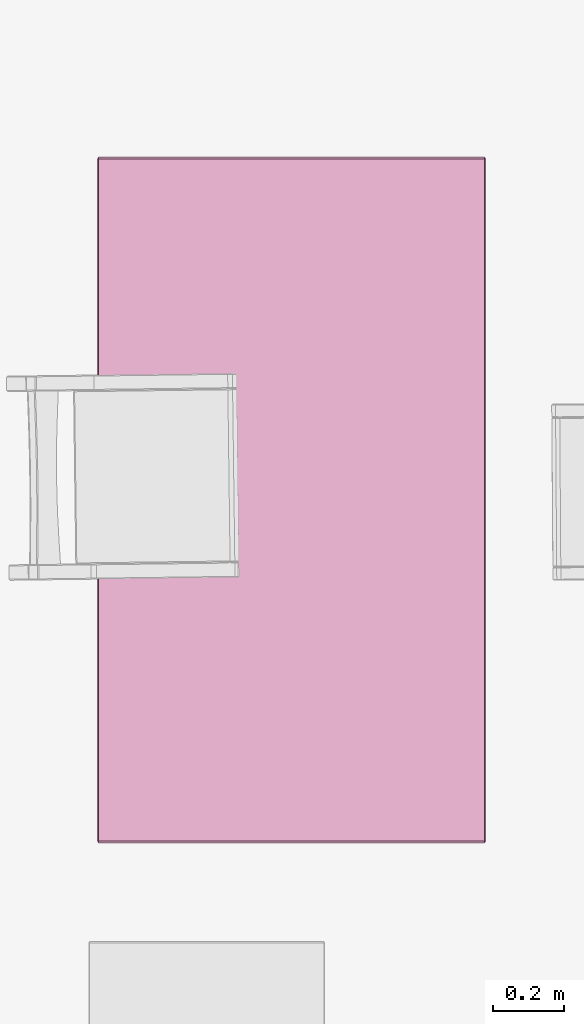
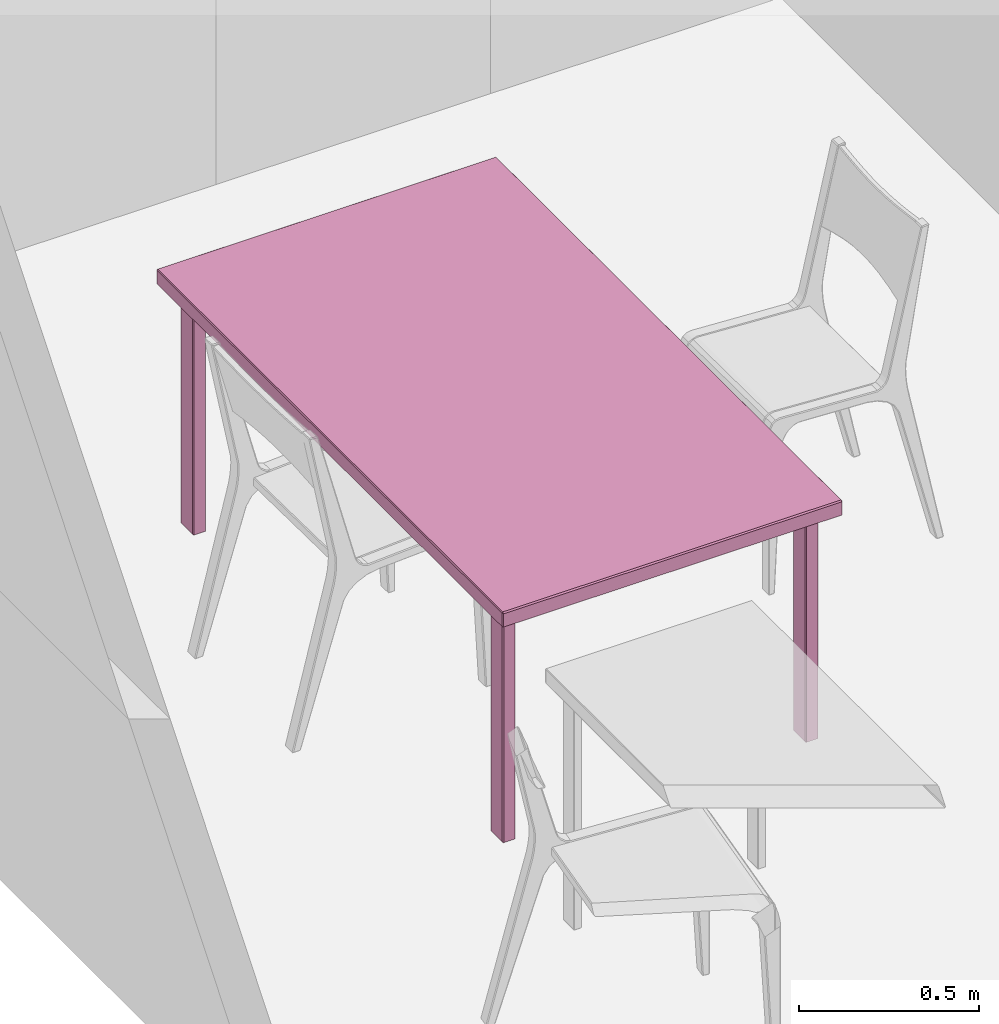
# One storey, part 7 of 26: 1 furnishing.
"""IFC2X3 building model written with IfcOpenShell, lengths in metres."""

import ifcopenshell
import ifcopenshell.guid

model = None  # the IFC model being written
_history = None  # IfcOwnerHistory: only IFC2X3 demands one
_inside = {}  # id of a spatial element -> (the spatial element, [elements in it])
_under = {}  # id of a project, library or spatial element -> (it, [spatial elements below it])
_declared = {}  # id of a project -> (the project, [libraries it declares])
_typed = {}  # id of a type object -> (the type object, [elements of that type])
_made_of = {}  # id of a material, layer set ... -> (it, [elements and type objects made of it])


def new_model(schema):
    """Start an empty IFC model of exactly this schema.

    Asked for "IFC4X3", IfcOpenShell would pick the latest addendum, in which some entities
    have other attributes; the version numbers below select the first issue.
    IFC2X3 requires an IfcOwnerHistory on every rooted entity: one is made here for all.
    """
    global model, _history
    if schema == "IFC4X3":
        model = ifcopenshell.file(schema_version=(4, 3, 0, 0))
    else:
        model = ifcopenshell.file(schema=schema)
    _inside.clear()
    _under.clear()
    _declared.clear()
    _typed.clear()
    _made_of.clear()
    _history = None
    if model.schema == "IFC2X3":
        org = make("IfcOrganization", Name="unknown")
        user = make(
            "IfcPersonAndOrganization",
            ThePerson=make("IfcPerson", FamilyName="unknown"),
            TheOrganization=org,
        )
        app = make(
            "IfcApplication",
            ApplicationDeveloper=org,
            Version="unknown",
            ApplicationFullName="unknown",
            ApplicationIdentifier="unknown",
        )
        _history = make(
            "IfcOwnerHistory",
            OwningUser=user,
            OwningApplication=app,
            ChangeAction="ADDED",
            CreationDate=0,
        )
    return model


def make(cls, **values):
    """One entity of the class cls with the attributes given. An attribute that is None is left unset."""
    return model.create_entity(
        cls, **{name: value for name, value in values.items() if value is not None}
    )


def rooted(cls, **values):
    """An entity with a GlobalId (a new one), such as an element, a storey or a relation."""
    return make(cls, GlobalId=ifcopenshell.guid.new(), OwnerHistory=_history, **values)


def si_unit(unit_type, name, prefix=None):
    """IfcSIUnit, for example si_unit("LENGTHUNIT", "METRE", prefix="MILLI")."""
    return make("IfcSIUnit", UnitType=unit_type, Prefix=prefix, Name=name)


def assignment(units):
    """IfcUnitAssignment: the units of a project."""
    return None if units is None else make("IfcUnitAssignment", Units=units)


def point(xyz):
    """IfcCartesianPoint."""
    return None if xyz is None else make("IfcCartesianPoint", Coordinates=xyz)


def direction(xyz):
    """IfcDirection."""
    return None if xyz is None else make("IfcDirection", DirectionRatios=xyz)


def frame(location, z_axis=None, x_axis=None):
    """IfcAxis2Placement3D, a coordinate frame: its origin and axes. An axis left out is left unset."""
    return make(
        "IfcAxis2Placement3D",
        Location=point(location),
        Axis=direction(z_axis),
        RefDirection=direction(x_axis),
    )


def origin_with_axes():
    """The frame at (0, 0, 0) with the z axis (0, 0, 1) and the x axis (1, 0, 0) written out."""
    return frame((0.0, 0.0, 0.0), z_axis=(0.0, 0.0, 1.0), x_axis=(1.0, 0.0, 0.0))


def place(relative_to, where):
    """IfcLocalPlacement: puts the frame where relative to a parent placement (None: the world)."""
    return make(
        "IfcLocalPlacement", PlacementRelTo=relative_to, RelativePlacement=where
    )


def context(
    kind, dimensions, precision=None, world=None, true_north=None, identifier=None
):
    """IfcGeometricRepresentationContext, for example the 3D "Model" context."""
    return make(
        "IfcGeometricRepresentationContext",
        ContextIdentifier=identifier,
        ContextType=kind,
        CoordinateSpaceDimension=dimensions,
        Precision=precision,
        WorldCoordinateSystem=world,
        TrueNorth=true_north,
    )


def project(units=None, contexts=None):
    """IfcProject with its units and contexts."""
    return rooted(
        "IfcProject",
        Name="project",
        RepresentationContexts=contexts,
        UnitsInContext=assignment(units),
    )


def spatial(cls, under=None, at=None, **own):
    """A site, building, storey or space (cls), placed at a placement, below another one or the project."""
    s = rooted(cls, ObjectPlacement=at, **own)
    if under is not None:
        _under.setdefault(under.id(), (under, []))[1].append(s)
    return s


def faces_of(points, faces, orient=None, outer=None):
    """IfcFace entities. A face is a list of loops; a loop is a list of indices into points, from 0.

    orient and outer hold one flag for each loop. By default every Orientation is true, the
    first loop of a face is its IfcFaceOuterBound and the others are IfcFaceBound.
    """
    made = []
    for i, loops in enumerate(faces):
        bounds = []
        for j, loop in enumerate(loops):
            is_outer = j == 0 if outer is None else outer[i][j]
            bounds.append(
                make(
                    "IfcFaceOuterBound" if is_outer else "IfcFaceBound",
                    Bound=make("IfcPolyLoop", Polygon=[points[k] for k in loop]),
                    Orientation=True if orient is None else orient[i][j],
                )
            )
        made.append(make("IfcFace", Bounds=bounds))
    return made


def faceted_brep(points, faces, orient=None, outer=None, voids=None):
    """IfcFacetedBrep: a solid bounded by flat faces; with voids (closed shells), ...WithVoids."""
    shared = [point(p) for p in points]
    hull = make("IfcClosedShell", CfsFaces=faces_of(shared, faces, orient, outer))
    if voids is None:
        return make("IfcFacetedBrep", Outer=hull)
    return make(
        "IfcFacetedBrepWithVoids",
        Outer=hull,
        Voids=[
            make(cls, CfsFaces=faces_of(shared, fs, o, b)) for cls, fs, o, b in voids
        ],
    )


def shape(context_of_items, identifier, shape_type, items):
    """IfcShapeRepresentation: the items that make up one representation, for example the "Body"."""
    return make(
        "IfcShapeRepresentation",
        ContextOfItems=context_of_items,
        RepresentationIdentifier=identifier,
        RepresentationType=shape_type,
        Items=items,
    )


def made_of(thing, what):
    """Note that an element or type object is made of a material, layer set ...; save() writes the relation."""
    if what is not None:
        _made_of.setdefault(what.id(), (what, []))[1].append(thing)
    return thing


def type_object(cls, material=None, **own):
    """A type object (cls), such as IfcWallType, which elements share."""
    return made_of(rooted(cls, **own), material)


def element(
    cls,
    number,
    at=None,
    inside=None,
    cuts=None,
    type_object=None,
    material=None,
    context=None,
    identifier="Body",
    shape_type=None,
    held_by="IfcProductDefinitionShape",
    body=None,
    shapes=None,
    **own,
):
    """One element of the class cls, such as IfcWall. Its Tag is "e" and its number.

    at: its placement. inside: the storey or other place that contains it. cuts: it is an
    opening in that element (IfcRelVoidsElement). A single representation is given by context,
    identifier, shape_type and body (its items); several are given by shapes. held_by: the class
    of the entity that holds the representations. save() writes the other relations.
    """
    e = rooted(cls, Tag="e%d" % number, ObjectPlacement=at, **own)
    if body is not None:
        shapes = [shape(context, identifier, shape_type, body)]
    if shapes is not None:
        e.Representation = make(held_by, Representations=shapes)
    if inside is not None:
        _inside.setdefault(inside.id(), (inside, []))[1].append(e)
    if cuts is not None:
        rooted(
            "IfcRelVoidsElement", RelatingBuildingElement=cuts, RelatedOpeningElement=e
        )
    if type_object is not None:
        _typed.setdefault(type_object.id(), (type_object, []))[1].append(e)
    return made_of(e, material)


def aggregate(whole, parts):
    """IfcRelAggregates: a whole, such as a stair, and the parts it consists of."""
    return rooted("IfcRelAggregates", RelatingObject=whole, RelatedObjects=parts)


def save(model, path):
    """Write the relations noted so far, then the file.

    IfcRelAggregates (storeys below a building ...), IfcRelContainedInSpatialStructure (elements
    in a storey), IfcRelDefinesByType, IfcRelAssociatesMaterial and IfcRelDeclares: one each for
    every whole, place, type object, material and project.
    """
    for whole, parts in _under.values():
        aggregate(whole, parts)
    for where, things in _inside.values():
        rooted(
            "IfcRelContainedInSpatialStructure",
            RelatedElements=things,
            RelatingStructure=where,
        )
    for kind, things in _typed.values():
        rooted("IfcRelDefinesByType", RelatedObjects=things, RelatingType=kind)
    for what, things in _made_of.values():
        rooted("IfcRelAssociatesMaterial", RelatedObjects=things, RelatingMaterial=what)
    for by, libraries in _declared.values():
        rooted("IfcRelDeclares", RelatingContext=by, RelatedDefinitions=libraries)
    model.write(path)


model = new_model("IFC2X3")

# Units and contexts
model_context = context("Model", 3, precision=1e-05, world=origin_with_axes(), true_north=direction((0.996, -0.093, 0.0)))
ifc_project = project(units=[si_unit("AREAUNIT", "SQUARE_METRE"), si_unit("LENGTHUNIT", "METRE")], contexts=[model_context])

# Site, building, storey, space
site_placement = place(None, origin_with_axes())
site = spatial("IfcSite", under=ifc_project, at=site_placement, Name="Site", CompositionType="ELEMENT")
building_placement = place(site_placement, origin_with_axes())
building = spatial("IfcBuilding", under=site, at=building_placement, Name="Building", CompositionType="ELEMENT")
storey_placement = place(building_placement, frame((0.0, 0.0, 0.0500001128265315), z_axis=(0.0, 0.0, 1.0), x_axis=(1.0, 0.0, 0.0)))
storey = spatial("IfcBuildingStorey", under=building, at=storey_placement, Name="Story 0", CompositionType="ELEMENT", Elevation=0.0499999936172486)
space_placement = place(storey_placement, frame((1.81268447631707, 0.769192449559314, 0.0), z_axis=(0.0, 0.0, 1.0), x_axis=(1.0, 0.0, 0.0)))
space = spatial("IfcSpace", under=storey, at=space_placement, Name="013", CompositionType="ELEMENT", InteriorOrExteriorSpace="INTERNAL")

# Furnishing
furniture_type = type_object("IfcFurnitureType", Name="e00dc033-f8c6-4f8b-baa7-d7755d556556")
furnishing_placement = place(space_placement, frame((-2.20816114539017, -2.26385425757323, 0.41785247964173), z_axis=(0.0, 0.0, 0.999999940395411), x_axis=(-0.999999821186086, 0.0, 0.0)))
element("IfcFurnishingElement", 1, at=furnishing_placement, inside=space, type_object=furniture_type, Name="Table", ObjectType="Table", context=model_context, shape_type="Brep", body=[
    faceted_brep([(0.5414, 0.9615, 0.3694), (-0.5414, 0.9615, 0.3694), (0.5414, 0.9615, 0.4142), (-0.5414, 0.9615, 0.4142), (0.5414, 0.9615, 0.4142), (-0.5414, 0.9615, 0.3694), (0.4641, -0.8903, 0.3788), (0.4641, -0.8272, 0.3788), (0.4641, -0.8903, -0.4142), (0.4641, -0.8272, -0.4142), (0.4641, -0.8903, -0.4142), (0.4641, -0.8272, 0.3788), (0.5025, -0.8951, 0.3788), (0.4668, -0.8951, 0.3788), (0.5025, -0.8951, -0.4142), (0.4668, -0.8951, -0.4142), (0.5025, -0.8951, -0.4142), (0.4668, -0.8951, 0.3788), (0.5052, -0.8272, 0.3788), (0.5052, -0.8903, 0.3788), (0.5052, -0.8272, -0.4142), (0.5052, -0.8903, -0.4142), (0.5052, -0.8272, -0.4142), (0.5052, -0.8903, 0.3788), (0.4668, -0.8224, 0.3788), (0.5025, -0.8224, 0.3788), (0.4668, -0.8224, -0.4142), (0.5025, -0.8224, -0.4142), (0.4668, -0.8224, -0.4142), (0.5025, -0.8224, 0.3788), (0.4641, 0.8903, 0.3788), (0.4641, 0.8903, -0.4142), (0.4641, 0.8272, 0.3788), (0.4641, 0.8272, -0.4142), (0.4641, 0.8272, 0.3788), (0.4641, 0.8903, -0.4142), (0.5025, 0.8951, 0.3788), (0.5025, 0.8951, -0.4142), (0.4668, 0.8951, 0.3788), (0.4668, 0.8951, -0.4142), (0.4668, 0.8951, 0.3788), (0.5025, 0.8951, -0.4142), (0.5052, 0.8272, 0.3788), (0.5052, 0.8272, -0.4142), (0.5052, 0.8903, 0.3788), (0.5052, 0.8903, -0.4142), (0.5052, 0.8903, 0.3788), (0.5052, 0.8272, -0.4142), (0.4668, 0.8224, 0.3788), (0.4668, 0.8224, -0.4142), (0.5025, 0.8224, 0.3788), (0.5025, 0.8224, -0.4142), (0.5025, 0.8224, 0.3788), (0.4668, 0.8224, -0.4142), (0.5441, 0.9567, 0.3694), (0.5441, 0.9567, 0.4142), (0.5441, -0.9567, 0.3694), (0.5441, -0.9567, 0.4142), (0.5441, -0.9567, 0.3694), (0.5441, 0.9567, 0.4142), (-0.5441, 0.9567, 0.4142), (-0.5441, 0.9567, 0.3694), (-0.5441, -0.9567, 0.4142), (-0.5441, -0.9567, 0.3694), (-0.5441, -0.9567, 0.4142), (-0.5441, 0.9567, 0.3694), (-0.4641, -0.8903, 0.3788), (-0.4641, -0.8903, -0.4142), (-0.4641, -0.8272, 0.3788), (-0.4641, -0.8272, -0.4142), (-0.4641, -0.8272, 0.3788), (-0.4641, -0.8903, -0.4142), (-0.5025, -0.8951, 0.3788), (-0.5025, -0.8951, -0.4142), (-0.4668, -0.8951, 0.3788), (-0.4668, -0.8951, -0.4142), (-0.4668, -0.8951, 0.3788), (-0.5025, -0.8951, -0.4142), (-0.5052, -0.8272, 0.3788), (-0.5052, -0.8272, -0.4142), (-0.5052, -0.8903, 0.3788), (-0.5052, -0.8903, -0.4142), (-0.5052, -0.8903, 0.3788), (-0.5052, -0.8272, -0.4142), (-0.4668, -0.8224, 0.3788), (-0.4668, -0.8224, -0.4142), (-0.5025, -0.8224, 0.3788), (-0.5025, -0.8224, -0.4142), (-0.5025, -0.8224, 0.3788), (-0.4668, -0.8224, -0.4142), (-0.4641, 0.8903, 0.3788), (-0.4641, 0.8272, 0.3788), (-0.4641, 0.8903, -0.4142), (-0.4641, 0.8272, -0.4142), (-0.4641, 0.8903, -0.4142), (-0.4641, 0.8272, 0.3788), (-0.5025, 0.8951, 0.3788), (-0.4668, 0.8951, 0.3788), (-0.5025, 0.8951, -0.4142), (-0.4668, 0.8951, -0.4142), (-0.5025, 0.8951, -0.4142), (-0.4668, 0.8951, 0.3788), (-0.5052, 0.8272, 0.3788), (-0.5052, 0.8903, 0.3788), (-0.5052, 0.8272, -0.4142), (-0.5052, 0.8903, -0.4142), (-0.5052, 0.8272, -0.4142), (-0.5052, 0.8903, 0.3788), (-0.4668, 0.8224, 0.3788), (-0.5025, 0.8224, 0.3788), (-0.4668, 0.8224, -0.4142), (-0.5025, 0.8224, -0.4142), (-0.4668, 0.8224, -0.4142), (-0.5025, 0.8224, 0.3788), (-0.5414, 0.9567, 0.4179), (-0.5414, -0.9567, 0.4179), (0.5414, 0.9567, 0.4179), (0.5414, -0.9567, 0.4179), (0.5414, 0.9567, 0.4179), (-0.5414, -0.9567, 0.4179), (0.5414, -0.9615, 0.3694), (0.5414, -0.9615, 0.4142), (-0.5414, -0.9615, 0.3694), (-0.5414, -0.9615, 0.4142), (-0.5414, -0.9615, 0.3694), (0.5414, -0.9615, 0.4142), (0.5414, -0.9567, 0.3657), (-0.5414, -0.9567, 0.3657), (0.5414, 0.9567, 0.3657), (-0.5414, 0.9567, 0.3657), (0.5414, 0.9567, 0.3657), (-0.5414, -0.9567, 0.3657), (0.5025, -0.8903, 0.3825), (0.5025, -0.8272, 0.3825), (0.4668, -0.8903, 0.3825), (0.4668, -0.8272, 0.3825), (0.4668, -0.8903, 0.3825), (0.5025, -0.8272, 0.3825), (0.5025, -0.8272, -0.4179), (0.5025, -0.8903, -0.4179), (0.4668, -0.8272, -0.4179), (0.4668, -0.8903, -0.4179), (0.4668, -0.8272, -0.4179), (0.5025, -0.8903, -0.4179), (0.5025, 0.8903, -0.4179), (0.5025, 0.8272, -0.4179), (0.4668, 0.8903, -0.4179), (0.4668, 0.8272, -0.4179), (0.4668, 0.8903, -0.4179), (0.5025, 0.8272, -0.4179), (0.5025, 0.8272, 0.3825), (0.5025, 0.8903, 0.3825), (0.4668, 0.8272, 0.3825), (0.4668, 0.8903, 0.3825), (0.4668, 0.8272, 0.3825), (0.5025, 0.8903, 0.3825), (-0.5025, -0.8903, -0.4179), (-0.5025, -0.8272, -0.4179), (-0.4668, -0.8903, -0.4179), (-0.4668, -0.8272, -0.4179), (-0.4668, -0.8903, -0.4179), (-0.5025, -0.8272, -0.4179), (-0.5025, -0.8272, 0.3825), (-0.5025, -0.8903, 0.3825), (-0.4668, -0.8272, 0.3825), (-0.4668, -0.8903, 0.3825), (-0.4668, -0.8272, 0.3825), (-0.5025, -0.8903, 0.3825), (-0.5025, 0.8903, 0.3825), (-0.5025, 0.8272, 0.3825), (-0.4668, 0.8903, 0.3825), (-0.4668, 0.8272, 0.3825), (-0.4668, 0.8903, 0.3825), (-0.5025, 0.8272, 0.3825), (-0.5025, 0.8272, -0.4179), (-0.5025, 0.8903, -0.4179), (-0.4668, 0.8272, -0.4179), (-0.4668, 0.8903, -0.4179), (-0.4668, 0.8272, -0.4179), (-0.5025, 0.8903, -0.4179), (-0.5414, 0.9567, 0.4179), (-0.5414, 0.9615, 0.4142), (-0.5441, 0.9567, 0.4142), (0.4668, -0.8272, -0.4179), (0.4641, -0.8272, -0.4142), (0.4668, -0.8224, -0.4142), (0.4668, -0.8903, -0.4179), (0.4668, -0.8951, -0.4142), (0.4641, -0.8903, -0.4142), (0.5025, -0.8903, -0.4179), (0.5052, -0.8903, -0.4142), (0.5025, -0.8951, -0.4142), (0.5025, -0.8272, -0.4179), (0.5025, -0.8224, -0.4142), (0.5052, -0.8272, -0.4142), (0.4668, -0.8272, 0.3825), (0.4668, -0.8224, 0.3788), (0.4641, -0.8272, 0.3788), (0.4668, 0.8224, -0.4142), (0.4641, 0.8272, -0.4142), (0.4668, 0.8272, -0.4179), (0.4668, 0.8903, 0.3825), (0.4668, 0.8951, 0.3788), (0.4641, 0.8903, 0.3788), (0.5025, 0.8903, 0.3825), (0.5052, 0.8903, 0.3788), (0.5025, 0.8951, 0.3788), (0.5025, 0.8272, 0.3825), (0.5025, 0.8224, 0.3788), (0.5052, 0.8272, 0.3788), (0.5414, -0.9615, 0.4142), (0.5441, -0.9567, 0.4142), (0.5414, -0.9567, 0.4179), (0.5414, 0.9567, 0.4179), (0.5441, 0.9567, 0.4142), (0.5414, 0.9615, 0.4142), (-0.5414, -0.9615, 0.3694), (-0.5441, -0.9567, 0.3694), (-0.5414, -0.9567, 0.3657), (-0.5414, 0.9567, 0.3657), (-0.5441, 0.9567, 0.3694), (-0.5414, 0.9615, 0.3694), (-0.4668, -0.8224, -0.4142), (-0.4641, -0.8272, -0.4142), (-0.4668, -0.8272, -0.4179), (-0.4668, -0.8903, 0.3825), (-0.4668, -0.8951, 0.3788), (-0.4641, -0.8903, 0.3788), (-0.5025, -0.8903, 0.3825), (-0.5052, -0.8903, 0.3788), (-0.5025, -0.8951, 0.3788), (-0.5025, -0.8272, 0.3825), (-0.5025, -0.8224, 0.3788), (-0.5052, -0.8272, 0.3788), (-0.4668, 0.8272, -0.4179), (-0.4641, 0.8272, -0.4142), (-0.4668, 0.8224, -0.4142), (-0.4668, 0.8903, -0.4179), (-0.4668, 0.8951, -0.4142), (-0.4641, 0.8903, -0.4142), (-0.5025, 0.8903, -0.4179), (-0.5052, 0.8903, -0.4142), (-0.5025, 0.8951, -0.4142), (-0.5025, 0.8272, -0.4179), (-0.5025, 0.8224, -0.4142), (-0.5052, 0.8272, -0.4142), (-0.4668, 0.8272, 0.3825), (-0.4668, 0.8224, 0.3788), (-0.4641, 0.8272, 0.3788), (-0.5414, -0.9615, 0.4142), (-0.5414, -0.9567, 0.4179), (-0.5441, -0.9567, 0.4142), (0.5414, -0.9615, 0.3694), (0.5414, -0.9567, 0.3657), (0.5441, -0.9567, 0.3694), (0.5441, 0.9567, 0.3694), (0.5414, 0.9567, 0.3657), (0.5414, 0.9615, 0.3694), (0.5025, -0.8224, 0.3788), (0.5025, -0.8272, 0.3825), (0.5052, -0.8272, 0.3788), (0.5052, -0.8903, 0.3788), (0.5025, -0.8903, 0.3825), (0.5025, -0.8951, 0.3788), (0.4668, -0.8951, 0.3788), (0.4668, -0.8903, 0.3825), (0.4641, -0.8903, 0.3788), (0.5025, 0.8224, -0.4142), (0.5025, 0.8272, -0.4179), (0.5052, 0.8272, -0.4142), (0.5052, 0.8903, -0.4142), (0.5025, 0.8903, -0.4179), (0.5025, 0.8951, -0.4142), (0.4668, 0.8951, -0.4142), (0.4668, 0.8903, -0.4179), (0.4641, 0.8903, -0.4142), (0.4668, 0.8224, 0.3788), (0.4668, 0.8272, 0.3825), (0.4641, 0.8272, 0.3788), (-0.5025, -0.8224, -0.4142), (-0.5025, -0.8272, -0.4179), (-0.5052, -0.8272, -0.4142), (-0.5052, -0.8903, -0.4142), (-0.5025, -0.8903, -0.4179), (-0.5025, -0.8951, -0.4142), (-0.4668, -0.8951, -0.4142), (-0.4668, -0.8903, -0.4179), (-0.4641, -0.8903, -0.4142), (-0.4668, -0.8224, 0.3788), (-0.4668, -0.8272, 0.3825), (-0.4641, -0.8272, 0.3788), (-0.5025, 0.8224, 0.3788), (-0.5025, 0.8272, 0.3825), (-0.5052, 0.8272, 0.3788), (-0.5052, 0.8903, 0.3788), (-0.5025, 0.8903, 0.3825), (-0.5025, 0.8951, 0.3788), (-0.4668, 0.8951, 0.3788), (-0.4668, 0.8903, 0.3825), (-0.4641, 0.8903, 0.3788), (-0.5414, 0.9615, 0.4142), (-0.5414, 0.9615, 0.3694), (-0.5441, 0.9567, 0.4142), (-0.5441, 0.9567, 0.3694), (-0.5441, 0.9567, 0.4142), (-0.5414, 0.9615, 0.3694), (-0.5414, 0.9615, 0.3694), (0.5414, 0.9615, 0.3694), (-0.5414, 0.9567, 0.3657), (0.5414, 0.9567, 0.3657), (-0.5414, 0.9567, 0.3657), (0.5414, 0.9615, 0.3694), (0.5414, 0.9615, 0.3694), (0.5414, 0.9615, 0.4142), (0.5441, 0.9567, 0.3694), (0.5441, 0.9567, 0.4142), (0.5441, 0.9567, 0.3694), (0.5414, 0.9615, 0.4142), (0.5414, 0.9615, 0.4142), (-0.5414, 0.9615, 0.4142), (0.5414, 0.9567, 0.4179), (-0.5414, 0.9567, 0.4179), (0.5414, 0.9567, 0.4179), (-0.5414, 0.9615, 0.4142), (0.4641, -0.8272, -0.4142), (0.4641, -0.8272, 0.3788), (0.4668, -0.8224, -0.4142), (0.4668, -0.8224, 0.3788), (0.4668, -0.8224, -0.4142), (0.4641, -0.8272, 0.3788), (0.4641, -0.8272, 0.3788), (0.4641, -0.8903, 0.3788), (0.4668, -0.8272, 0.3825), (0.4668, -0.8903, 0.3825), (0.4668, -0.8272, 0.3825), (0.4641, -0.8903, 0.3788), (0.4641, -0.8903, 0.3788), (0.4641, -0.8903, -0.4142), (0.4668, -0.8951, 0.3788), (0.4668, -0.8951, -0.4142), (0.4668, -0.8951, 0.3788), (0.4641, -0.8903, -0.4142), (0.4641, -0.8903, -0.4142), (0.4641, -0.8272, -0.4142), (0.4668, -0.8903, -0.4179), (0.4668, -0.8272, -0.4179), (0.4668, -0.8903, -0.4179), (0.4641, -0.8272, -0.4142), (0.4668, -0.8951, 0.3788), (0.5025, -0.8951, 0.3788), (0.4668, -0.8903, 0.3825), (0.5025, -0.8903, 0.3825), (0.4668, -0.8903, 0.3825), (0.5025, -0.8951, 0.3788), (0.5025, -0.8951, 0.3788), (0.5025, -0.8951, -0.4142), (0.5052, -0.8903, 0.3788), (0.5052, -0.8903, -0.4142), (0.5052, -0.8903, 0.3788), (0.5025, -0.8951, -0.4142), (0.5025, -0.8951, -0.4142), (0.4668, -0.8951, -0.4142), (0.5025, -0.8903, -0.4179), (0.4668, -0.8903, -0.4179), (0.5025, -0.8903, -0.4179), (0.4668, -0.8951, -0.4142), (0.5052, -0.8903, 0.3788), (0.5052, -0.8272, 0.3788), (0.5025, -0.8903, 0.3825), (0.5025, -0.8272, 0.3825), (0.5025, -0.8903, 0.3825), (0.5052, -0.8272, 0.3788), (0.5052, -0.8272, 0.3788), (0.5052, -0.8272, -0.4142), (0.5025, -0.8224, 0.3788), (0.5025, -0.8224, -0.4142), (0.5025, -0.8224, 0.3788), (0.5052, -0.8272, -0.4142), (0.5052, -0.8272, -0.4142), (0.5052, -0.8903, -0.4142), (0.5025, -0.8272, -0.4179), (0.5025, -0.8903, -0.4179), (0.5025, -0.8272, -0.4179), (0.5052, -0.8903, -0.4142), (0.5025, -0.8224, 0.3788), (0.4668, -0.8224, 0.3788), (0.5025, -0.8272, 0.3825), (0.4668, -0.8272, 0.3825), (0.5025, -0.8272, 0.3825), (0.4668, -0.8224, 0.3788), (0.4668, -0.8224, -0.4142), (0.5025, -0.8224, -0.4142), (0.4668, -0.8272, -0.4179), (0.5025, -0.8272, -0.4179), (0.4668, -0.8272, -0.4179), (0.5025, -0.8224, -0.4142), (0.4641, 0.8272, -0.4142), (0.4641, 0.8903, -0.4142), (0.4668, 0.8272, -0.4179), (0.4668, 0.8903, -0.4179), (0.4668, 0.8272, -0.4179), (0.4641, 0.8903, -0.4142), (0.4641, 0.8903, -0.4142), (0.4641, 0.8903, 0.3788), (0.4668, 0.8951, -0.4142), (0.4668, 0.8951, 0.3788), (0.4668, 0.8951, -0.4142), (0.4641, 0.8903, 0.3788), (0.4641, 0.8903, 0.3788), (0.4641, 0.8272, 0.3788), (0.4668, 0.8903, 0.3825), (0.4668, 0.8272, 0.3825), (0.4668, 0.8903, 0.3825), (0.4641, 0.8272, 0.3788), (0.4641, 0.8272, 0.3788), (0.4641, 0.8272, -0.4142), (0.4668, 0.8224, 0.3788), (0.4668, 0.8224, -0.4142), (0.4668, 0.8224, 0.3788), (0.4641, 0.8272, -0.4142), (0.4668, 0.8951, -0.4142), (0.5025, 0.8951, -0.4142), (0.4668, 0.8903, -0.4179), (0.5025, 0.8903, -0.4179), (0.4668, 0.8903, -0.4179), (0.5025, 0.8951, -0.4142), (0.5025, 0.8951, -0.4142), (0.5025, 0.8951, 0.3788), (0.5052, 0.8903, -0.4142), (0.5052, 0.8903, 0.3788), (0.5052, 0.8903, -0.4142), (0.5025, 0.8951, 0.3788), (0.5025, 0.8951, 0.3788), (0.4668, 0.8951, 0.3788), (0.5025, 0.8903, 0.3825), (0.4668, 0.8903, 0.3825), (0.5025, 0.8903, 0.3825), (0.4668, 0.8951, 0.3788), (0.5052, 0.8903, -0.4142), (0.5052, 0.8272, -0.4142), (0.5025, 0.8903, -0.4179), (0.5025, 0.8272, -0.4179), (0.5025, 0.8903, -0.4179), (0.5052, 0.8272, -0.4142), (0.5052, 0.8272, -0.4142), (0.5052, 0.8272, 0.3788), (0.5025, 0.8224, -0.4142), (0.5025, 0.8224, 0.3788), (0.5025, 0.8224, -0.4142), (0.5052, 0.8272, 0.3788), (0.5052, 0.8272, 0.3788), (0.5052, 0.8903, 0.3788), (0.5025, 0.8272, 0.3825), (0.5025, 0.8903, 0.3825), (0.5025, 0.8272, 0.3825), (0.5052, 0.8903, 0.3788), (0.5025, 0.8224, -0.4142), (0.4668, 0.8224, -0.4142), (0.5025, 0.8272, -0.4179), (0.4668, 0.8272, -0.4179), (0.5025, 0.8272, -0.4179), (0.4668, 0.8224, -0.4142), (0.4668, 0.8224, 0.3788), (0.5025, 0.8224, 0.3788), (0.4668, 0.8272, 0.3825), (0.5025, 0.8272, 0.3825), (0.4668, 0.8272, 0.3825), (0.5025, 0.8224, 0.3788), (0.5441, -0.9567, 0.4142), (0.5441, 0.9567, 0.4142), (0.5414, -0.9567, 0.4179), (0.5414, 0.9567, 0.4179), (0.5414, -0.9567, 0.4179), (0.5441, 0.9567, 0.4142), (0.5441, 0.9567, 0.3694), (0.5441, -0.9567, 0.3694), (0.5414, 0.9567, 0.3657), (0.5414, -0.9567, 0.3657), (0.5414, 0.9567, 0.3657), (0.5441, -0.9567, 0.3694), (0.5441, -0.9567, 0.3694), (0.5441, -0.9567, 0.4142), (0.5414, -0.9615, 0.3694), (0.5414, -0.9615, 0.4142), (0.5414, -0.9615, 0.3694), (0.5441, -0.9567, 0.4142), (-0.5441, -0.9567, 0.3694), (-0.5441, 0.9567, 0.3694), (-0.5414, -0.9567, 0.3657), (-0.5414, 0.9567, 0.3657), (-0.5414, -0.9567, 0.3657), (-0.5441, 0.9567, 0.3694), (-0.5441, 0.9567, 0.4142), (-0.5441, -0.9567, 0.4142), (-0.5414, 0.9567, 0.4179), (-0.5414, -0.9567, 0.4179), (-0.5414, 0.9567, 0.4179), (-0.5441, -0.9567, 0.4142), (-0.5441, -0.9567, 0.4142), (-0.5441, -0.9567, 0.3694), (-0.5414, -0.9615, 0.4142), (-0.5414, -0.9615, 0.3694), (-0.5414, -0.9615, 0.4142), (-0.5441, -0.9567, 0.3694), (-0.4641, -0.8272, -0.4142), (-0.4641, -0.8903, -0.4142), (-0.4668, -0.8272, -0.4179), (-0.4668, -0.8903, -0.4179), (-0.4668, -0.8272, -0.4179), (-0.4641, -0.8903, -0.4142), (-0.4641, -0.8903, -0.4142), (-0.4641, -0.8903, 0.3788), (-0.4668, -0.8951, -0.4142), (-0.4668, -0.8951, 0.3788), (-0.4668, -0.8951, -0.4142), (-0.4641, -0.8903, 0.3788), (-0.4641, -0.8903, 0.3788), (-0.4641, -0.8272, 0.3788), (-0.4668, -0.8903, 0.3825), (-0.4668, -0.8272, 0.3825), (-0.4668, -0.8903, 0.3825), (-0.4641, -0.8272, 0.3788), (-0.4641, -0.8272, 0.3788), (-0.4641, -0.8272, -0.4142), (-0.4668, -0.8224, 0.3788), (-0.4668, -0.8224, -0.4142), (-0.4668, -0.8224, 0.3788), (-0.4641, -0.8272, -0.4142), (-0.4668, -0.8951, -0.4142), (-0.5025, -0.8951, -0.4142), (-0.4668, -0.8903, -0.4179), (-0.5025, -0.8903, -0.4179), (-0.4668, -0.8903, -0.4179), (-0.5025, -0.8951, -0.4142), (-0.5025, -0.8951, -0.4142), (-0.5025, -0.8951, 0.3788), (-0.5052, -0.8903, -0.4142), (-0.5052, -0.8903, 0.3788), (-0.5052, -0.8903, -0.4142), (-0.5025, -0.8951, 0.3788), (-0.5025, -0.8951, 0.3788), (-0.4668, -0.8951, 0.3788), (-0.5025, -0.8903, 0.3825), (-0.4668, -0.8903, 0.3825), (-0.5025, -0.8903, 0.3825), (-0.4668, -0.8951, 0.3788), (-0.5052, -0.8903, -0.4142), (-0.5052, -0.8272, -0.4142), (-0.5025, -0.8903, -0.4179), (-0.5025, -0.8272, -0.4179), (-0.5025, -0.8903, -0.4179), (-0.5052, -0.8272, -0.4142), (-0.5052, -0.8272, -0.4142), (-0.5052, -0.8272, 0.3788), (-0.5025, -0.8224, -0.4142), (-0.5025, -0.8224, 0.3788), (-0.5025, -0.8224, -0.4142), (-0.5052, -0.8272, 0.3788), (-0.5052, -0.8272, 0.3788), (-0.5052, -0.8903, 0.3788), (-0.5025, -0.8272, 0.3825), (-0.5025, -0.8903, 0.3825), (-0.5025, -0.8272, 0.3825), (-0.5052, -0.8903, 0.3788), (-0.5025, -0.8224, -0.4142), (-0.4668, -0.8224, -0.4142), (-0.5025, -0.8272, -0.4179), (-0.4668, -0.8272, -0.4179), (-0.5025, -0.8272, -0.4179), (-0.4668, -0.8224, -0.4142), (-0.4668, -0.8224, 0.3788), (-0.5025, -0.8224, 0.3788), (-0.4668, -0.8272, 0.3825), (-0.5025, -0.8272, 0.3825), (-0.4668, -0.8272, 0.3825), (-0.5025, -0.8224, 0.3788), (-0.4641, 0.8272, -0.4142), (-0.4641, 0.8272, 0.3788), (-0.4668, 0.8224, -0.4142), (-0.4668, 0.8224, 0.3788), (-0.4668, 0.8224, -0.4142), (-0.4641, 0.8272, 0.3788), (-0.4641, 0.8272, 0.3788), (-0.4641, 0.8903, 0.3788), (-0.4668, 0.8272, 0.3825), (-0.4668, 0.8903, 0.3825), (-0.4668, 0.8272, 0.3825), (-0.4641, 0.8903, 0.3788), (-0.4641, 0.8903, 0.3788), (-0.4641, 0.8903, -0.4142), (-0.4668, 0.8951, 0.3788), (-0.4668, 0.8951, -0.4142), (-0.4668, 0.8951, 0.3788), (-0.4641, 0.8903, -0.4142), (-0.4641, 0.8903, -0.4142), (-0.4641, 0.8272, -0.4142), (-0.4668, 0.8903, -0.4179), (-0.4668, 0.8272, -0.4179), (-0.4668, 0.8903, -0.4179), (-0.4641, 0.8272, -0.4142), (-0.4668, 0.8951, 0.3788), (-0.5025, 0.8951, 0.3788), (-0.4668, 0.8903, 0.3825), (-0.5025, 0.8903, 0.3825), (-0.4668, 0.8903, 0.3825), (-0.5025, 0.8951, 0.3788), (-0.5025, 0.8951, 0.3788), (-0.5025, 0.8951, -0.4142), (-0.5052, 0.8903, 0.3788), (-0.5052, 0.8903, -0.4142), (-0.5052, 0.8903, 0.3788), (-0.5025, 0.8951, -0.4142), (-0.5025, 0.8951, -0.4142), (-0.4668, 0.8951, -0.4142), (-0.5025, 0.8903, -0.4179), (-0.4668, 0.8903, -0.4179), (-0.5025, 0.8903, -0.4179), (-0.4668, 0.8951, -0.4142), (-0.5052, 0.8903, 0.3788), (-0.5052, 0.8272, 0.3788), (-0.5025, 0.8903, 0.3825), (-0.5025, 0.8272, 0.3825), (-0.5025, 0.8903, 0.3825), (-0.5052, 0.8272, 0.3788), (-0.5052, 0.8272, 0.3788), (-0.5052, 0.8272, -0.4142), (-0.5025, 0.8224, 0.3788), (-0.5025, 0.8224, -0.4142), (-0.5025, 0.8224, 0.3788), (-0.5052, 0.8272, -0.4142), (-0.5052, 0.8272, -0.4142), (-0.5052, 0.8903, -0.4142), (-0.5025, 0.8272, -0.4179), (-0.5025, 0.8903, -0.4179), (-0.5025, 0.8272, -0.4179), (-0.5052, 0.8903, -0.4142), (-0.5025, 0.8224, 0.3788), (-0.4668, 0.8224, 0.3788), (-0.5025, 0.8272, 0.3825), (-0.4668, 0.8272, 0.3825), (-0.5025, 0.8272, 0.3825), (-0.4668, 0.8224, 0.3788), (-0.4668, 0.8224, -0.4142), (-0.5025, 0.8224, -0.4142), (-0.4668, 0.8272, -0.4179), (-0.5025, 0.8272, -0.4179), (-0.4668, 0.8272, -0.4179), (-0.5025, 0.8224, -0.4142), (0.5414, -0.9567, 0.4179), (-0.5414, -0.9567, 0.4179), (0.5414, -0.9615, 0.4142), (-0.5414, -0.9615, 0.4142), (0.5414, -0.9615, 0.4142), (-0.5414, -0.9567, 0.4179), (0.5414, -0.9615, 0.3694), (-0.5414, -0.9615, 0.3694), (0.5414, -0.9567, 0.3657), (-0.5414, -0.9567, 0.3657), (0.5414, -0.9567, 0.3657), (-0.5414, -0.9615, 0.3694)], [[[0, 1, 2]], [[3, 4, 5]], [[6, 7, 8]], [[9, 10, 11]], [[12, 13, 14]], [[15, 16, 17]], [[18, 19, 20]], [[21, 22, 23]], [[24, 25, 26]], [[27, 28, 29]], [[30, 31, 32]], [[33, 34, 35]], [[36, 37, 38]], [[39, 40, 41]], [[42, 43, 44]], [[45, 46, 47]], [[48, 49, 50]], [[51, 52, 53]], [[54, 55, 56]], [[57, 58, 59]], [[60, 61, 62]], [[63, 64, 65]], [[66, 67, 68]], [[69, 70, 71]], [[72, 73, 74]], [[75, 76, 77]], [[78, 79, 80]], [[81, 82, 83]], [[84, 85, 86]], [[87, 88, 89]], [[90, 91, 92]], [[93, 94, 95]], [[96, 97, 98]], [[99, 100, 101]], [[102, 103, 104]], [[105, 106, 107]], [[108, 109, 110]], [[111, 112, 113]], [[114, 115, 116]], [[117, 118, 119]], [[120, 121, 122]], [[123, 124, 125]], [[126, 127, 128]], [[129, 130, 131]], [[132, 133, 134]], [[135, 136, 137]], [[138, 139, 140]], [[141, 142, 143]], [[144, 145, 146]], [[147, 148, 149]], [[150, 151, 152]], [[153, 154, 155]], [[156, 157, 158]], [[159, 160, 161]], [[162, 163, 164]], [[165, 166, 167]], [[168, 169, 170]], [[171, 172, 173]], [[174, 175, 176]], [[177, 178, 179]], [[180, 181, 182]], [[183, 184, 185]], [[186, 187, 188]], [[189, 190, 191]], [[192, 193, 194]], [[195, 196, 197]], [[198, 199, 200]], [[201, 202, 203]], [[204, 205, 206]], [[207, 208, 209]], [[210, 211, 212]], [[213, 214, 215]], [[216, 217, 218]], [[219, 220, 221]], [[222, 223, 224]], [[225, 226, 227]], [[228, 229, 230]], [[231, 232, 233]], [[234, 235, 236]], [[237, 238, 239]], [[240, 241, 242]], [[243, 244, 245]], [[246, 247, 248]], [[249, 250, 251]], [[252, 253, 254]], [[255, 256, 257]], [[258, 259, 260]], [[261, 262, 263]], [[264, 265, 266]], [[267, 268, 269]], [[270, 271, 272]], [[273, 274, 275]], [[276, 277, 278]], [[279, 280, 281]], [[282, 283, 284]], [[285, 286, 287]], [[288, 289, 290]], [[291, 292, 293]], [[294, 295, 296]], [[297, 298, 299]], [[300, 301, 302]], [[303, 304, 305]], [[306, 307, 308]], [[309, 310, 311]], [[312, 313, 314]], [[315, 316, 317]], [[318, 319, 320]], [[321, 322, 323]], [[324, 325, 326]], [[327, 328, 329]], [[330, 331, 332]], [[333, 334, 335]], [[336, 337, 338]], [[339, 340, 341]], [[342, 343, 344]], [[345, 346, 347]], [[348, 349, 350]], [[351, 352, 353]], [[354, 355, 356]], [[357, 358, 359]], [[360, 361, 362]], [[363, 364, 365]], [[366, 367, 368]], [[369, 370, 371]], [[372, 373, 374]], [[375, 376, 377]], [[378, 379, 380]], [[381, 382, 383]], [[384, 385, 386]], [[387, 388, 389]], [[390, 391, 392]], [[393, 394, 395]], [[396, 397, 398]], [[399, 400, 401]], [[402, 403, 404]], [[405, 406, 407]], [[408, 409, 410]], [[411, 412, 413]], [[414, 415, 416]], [[417, 418, 419]], [[420, 421, 422]], [[423, 424, 425]], [[426, 427, 428]], [[429, 430, 431]], [[432, 433, 434]], [[435, 436, 437]], [[438, 439, 440]], [[441, 442, 443]], [[444, 445, 446]], [[447, 448, 449]], [[450, 451, 452]], [[453, 454, 455]], [[456, 457, 458]], [[459, 460, 461]], [[462, 463, 464]], [[465, 466, 467]], [[468, 469, 470]], [[471, 472, 473]], [[474, 475, 476]], [[477, 478, 479]], [[480, 481, 482]], [[483, 484, 485]], [[486, 487, 488]], [[489, 490, 491]], [[492, 493, 494]], [[495, 496, 497]], [[498, 499, 500]], [[501, 502, 503]], [[504, 505, 506]], [[507, 508, 509]], [[510, 511, 512]], [[513, 514, 515]], [[516, 517, 518]], [[519, 520, 521]], [[522, 523, 524]], [[525, 526, 527]], [[528, 529, 530]], [[531, 532, 533]], [[534, 535, 536]], [[537, 538, 539]], [[540, 541, 542]], [[543, 544, 545]], [[546, 547, 548]], [[549, 550, 551]], [[552, 553, 554]], [[555, 556, 557]], [[558, 559, 560]], [[561, 562, 563]], [[564, 565, 566]], [[567, 568, 569]], [[570, 571, 572]], [[573, 574, 575]], [[576, 577, 578]], [[579, 580, 581]], [[582, 583, 584]], [[585, 586, 587]], [[588, 589, 590]], [[591, 592, 593]], [[594, 595, 596]], [[597, 598, 599]], [[600, 601, 602]], [[603, 604, 605]], [[606, 607, 608]], [[609, 610, 611]], [[612, 613, 614]], [[615, 616, 617]], [[618, 619, 620]], [[621, 622, 623]], [[624, 625, 626]], [[627, 628, 629]], [[630, 631, 632]], [[633, 634, 635]], [[636, 637, 638]], [[639, 640, 641]], [[642, 643, 644]], [[645, 646, 647]], [[648, 649, 650]], [[651, 652, 653]], [[654, 655, 656]], [[657, 658, 659]]]),
])

save(model, "model.ifc")
